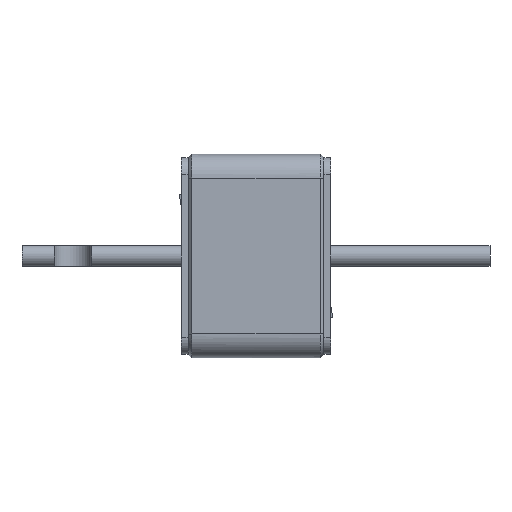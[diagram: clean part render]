
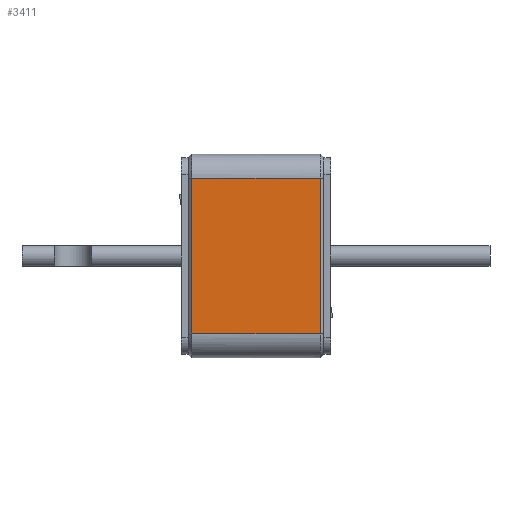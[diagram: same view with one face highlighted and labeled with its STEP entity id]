
A CAD part, front view. The second image highlights one B-rep face of the part: STEP entity #3411.
In plain terms, the highlighted planar face has unit normal (0, -1, 0).
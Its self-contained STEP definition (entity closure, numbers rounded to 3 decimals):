
#604 = CARTESIAN_POINT ( 'NONE',  ( -19., -30., 23. ) ) ;
#875 = CARTESIAN_POINT ( 'NONE',  ( 19., -30., -7.667 ) ) ;
#1255 = DIRECTION ( 'NONE',  ( 0., -1., 0. ) ) ;
#2328 = FACE_OUTER_BOUND ( 'NONE', #14194, .T. ) ;
#2817 = EDGE_CURVE ( 'NONE', #15325, #3848, #10249, .T. ) ;
#3036 = LINE ( 'NONE', #3184, #9290 ) ;
#3184 = CARTESIAN_POINT ( 'NONE',  ( -19., -30., -23. ) ) ;
#3322 = CARTESIAN_POINT ( 'NONE',  ( 19., -30., 23. ) ) ;
#3339 = CARTESIAN_POINT ( 'NONE',  ( -19., -30., -7.667 ) ) ;
#3411 = ADVANCED_FACE ( 'NONE', ( #2328 ), #7370, .T. ) ;
#3798 = EDGE_CURVE ( 'NONE', #3848, #12349, #12084, .T. ) ;
#3848 = VERTEX_POINT ( 'NONE', #4545 ) ;
#4353 = ORIENTED_EDGE ( 'NONE', *, *, #9621, .F. ) ;
#4545 = CARTESIAN_POINT ( 'NONE',  ( 19., -30., 23. ) ) ;
#4718 = AXIS2_PLACEMENT_3D ( 'NONE', #8800, #1255, #14866 ) ;
#5271 = EDGE_CURVE ( 'NONE', #5326, #12349, #3036, .T. ) ;
#5326 = VERTEX_POINT ( 'NONE', #8476 ) ;
#5909 = CARTESIAN_POINT ( 'NONE',  ( 19., -30., 7.667 ) ) ;
#7370 = PLANE ( 'NONE',  #4718 ) ;
#7481 = ORIENTED_EDGE ( 'NONE', *, *, #5271, .T. ) ;
#8476 = CARTESIAN_POINT ( 'NONE',  ( -19., -30., -23. ) ) ;
#8585 = CARTESIAN_POINT ( 'NONE',  ( -19., -30., 7.667 ) ) ;
#8800 = CARTESIAN_POINT ( 'NONE',  ( 20., -30., -30. ) ) ;
#8839 = B_SPLINE_CURVE_WITH_KNOTS ( 'NONE', 3,
 ( #14551, #3339, #8585, #15931 ),
 .UNSPECIFIED., .F., .F.,
 ( 4, 4 ),
 ( 0., 1. ),
 .UNSPECIFIED. ) ;
#9023 = ORIENTED_EDGE ( 'NONE', *, *, #2817, .F. ) ;
#9126 = VECTOR ( 'NONE', #12763, 1000. ) ;
#9290 = VECTOR ( 'NONE', #13074, 1000. ) ;
#9621 = EDGE_CURVE ( 'NONE', #5326, #15325, #8839, .T. ) ;
#10249 = LINE ( 'NONE', #10450, #9126 ) ;
#10450 = CARTESIAN_POINT ( 'NONE',  ( -19., -30., 23. ) ) ;
#10793 = CARTESIAN_POINT ( 'NONE',  ( 19., -30., -23. ) ) ;
#11188 = ORIENTED_EDGE ( 'NONE', *, *, #3798, .F. ) ;
#12084 = B_SPLINE_CURVE_WITH_KNOTS ( 'NONE', 3,
 ( #3322, #5909, #875, #10793 ),
 .UNSPECIFIED., .F., .F.,
 ( 4, 4 ),
 ( 0., 1. ),
 .UNSPECIFIED. ) ;
#12349 = VERTEX_POINT ( 'NONE', #15128 ) ;
#12763 = DIRECTION ( 'NONE',  ( 1., 0., 0. ) ) ;
#13074 = DIRECTION ( 'NONE',  ( 1., 0., 0. ) ) ;
#14194 = EDGE_LOOP ( 'NONE', ( #7481, #11188, #9023, #4353 ) ) ;
#14551 = CARTESIAN_POINT ( 'NONE',  ( -19., -30., -23. ) ) ;
#14866 = DIRECTION ( 'NONE',  ( 0., 0., -1. ) ) ;
#15128 = CARTESIAN_POINT ( 'NONE',  ( 19., -30., -23. ) ) ;
#15325 = VERTEX_POINT ( 'NONE', #604 ) ;
#15931 = CARTESIAN_POINT ( 'NONE',  ( -19., -30., 23. ) ) ;
